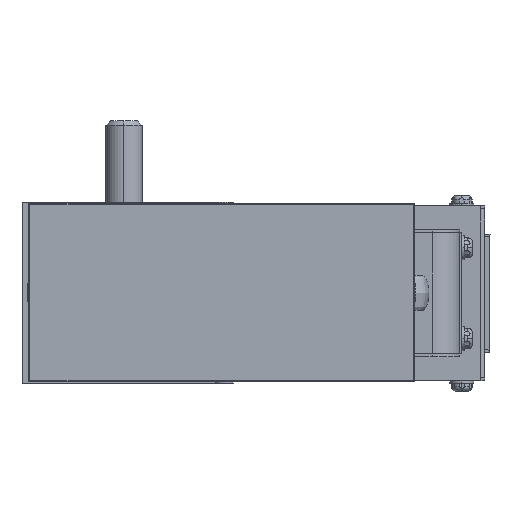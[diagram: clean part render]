
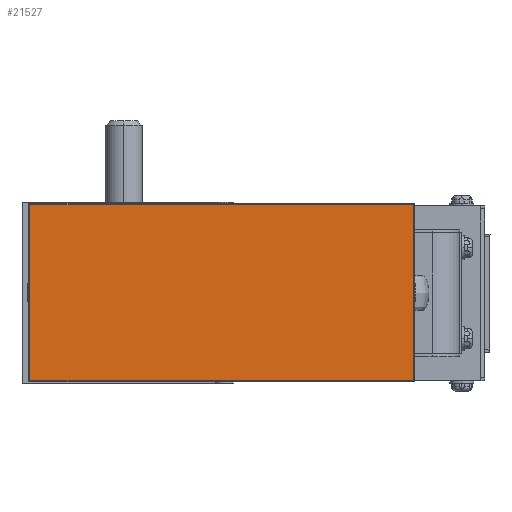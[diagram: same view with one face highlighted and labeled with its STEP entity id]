
A CAD part, top view. The second image highlights one B-rep face of the part: STEP entity #21527.
In plain terms, the highlighted planar face has unit normal (0, 0, 1).
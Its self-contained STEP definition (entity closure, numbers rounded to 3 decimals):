
#4586 = LINE ( 'NONE', #4605, #48476 ) ;
#4601 = LINE ( 'NONE', #4603, #48479 ) ;
#4603 = CARTESIAN_POINT ( 'NONE',  ( -69.339, -5.306, 23.463 ) ) ;
#4604 = DIRECTION ( 'NONE',  ( 0., -1., 0. ) ) ;
#4605 = CARTESIAN_POINT ( 'NONE',  ( 15.611, -5.056, 23.463 ) ) ;
#4606 = DIRECTION ( 'NONE',  ( 1., 0., 0. ) ) ;
#4607 = LINE ( 'NONE', #4608, #48481 ) ;
#4608 = CARTESIAN_POINT ( 'NONE',  ( 15.361, 34.094, 23.463 ) ) ;
#4609 = DIRECTION ( 'NONE',  ( 0., 1., 0. ) ) ;
#4610 = LINE ( 'NONE', #4611, #48482 ) ;
#4611 = CARTESIAN_POINT ( 'NONE',  ( -69.589, 33.844, 23.463 ) ) ;
#4612 = DIRECTION ( 'NONE',  ( -1., 0., 0. ) ) ;
#5520 = CARTESIAN_POINT ( 'NONE',  ( -69.339, 33.844, 23.463 ) ) ;
#5525 = CARTESIAN_POINT ( 'NONE',  ( -69.339, -5.056, 23.463 ) ) ;
#5530 = CARTESIAN_POINT ( 'NONE',  ( 15.361, -5.056, 23.463 ) ) ;
#5531 = CARTESIAN_POINT ( 'NONE',  ( 15.361, 33.844, 23.463 ) ) ;
#21527 = ADVANCED_FACE ( 'NONE', ( #46702 ), #46703, .T. ) ;
#22123 = EDGE_CURVE ( 'NONE', #24779, #24789, #4601, .T. ) ;
#22124 = EDGE_CURVE ( 'NONE', #24789, #24798, #4586, .T. ) ;
#22125 = EDGE_CURVE ( 'NONE', #24798, #24800, #4607, .T. ) ;
#22126 = EDGE_CURVE ( 'NONE', #24800, #24779, #4610, .T. ) ;
#24779 = VERTEX_POINT ( 'NONE', #5520 ) ;
#24789 = VERTEX_POINT ( 'NONE', #5525 ) ;
#24798 = VERTEX_POINT ( 'NONE', #5530 ) ;
#24800 = VERTEX_POINT ( 'NONE', #5531 ) ;
#28643 = ORIENTED_EDGE ( 'NONE', *, *, #22123, .T. ) ;
#28644 = ORIENTED_EDGE ( 'NONE', *, *, #22124, .T. ) ;
#28645 = ORIENTED_EDGE ( 'NONE', *, *, #22125, .T. ) ;
#28646 = ORIENTED_EDGE ( 'NONE', *, *, #22126, .T. ) ;
#32920 = EDGE_LOOP ( 'NONE', ( #28643, #28644, #28645, #28646 ) ) ;
#46699 = CARTESIAN_POINT ( 'NONE',  ( 15.611, 34.094, 23.463 ) ) ;
#46702 = FACE_OUTER_BOUND ( 'NONE', #32920, .T. ) ;
#46703 = PLANE ( 'NONE',  #47838 ) ;
#46705 = DIRECTION ( 'NONE',  ( 0., 0., 1. ) ) ;
#46706 = DIRECTION ( 'NONE',  ( 0., 1., 0. ) ) ;
#47838 = AXIS2_PLACEMENT_3D ( 'NONE', #46699, #46705, #46706 ) ;
#48476 = VECTOR ( 'NONE', #4606, 1000. ) ;
#48479 = VECTOR ( 'NONE', #4604, 1000. ) ;
#48481 = VECTOR ( 'NONE', #4609, 1000. ) ;
#48482 = VECTOR ( 'NONE', #4612, 1000. ) ;
